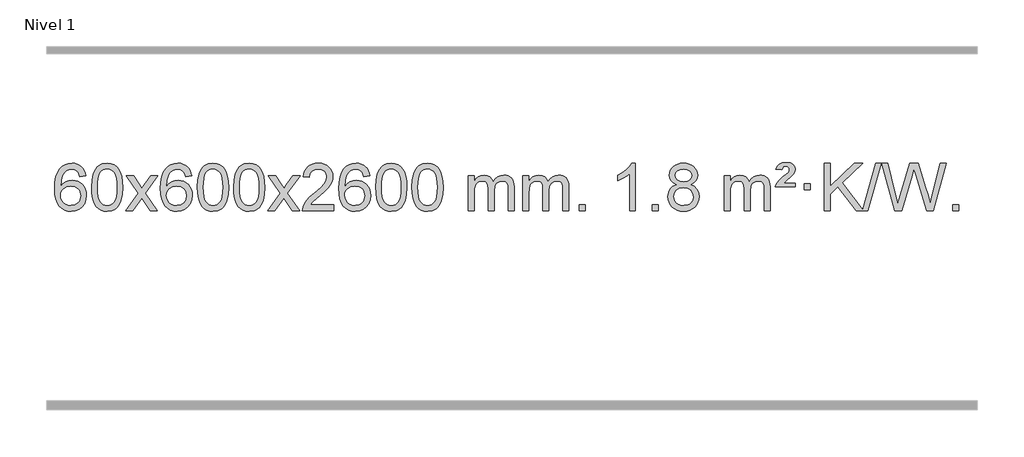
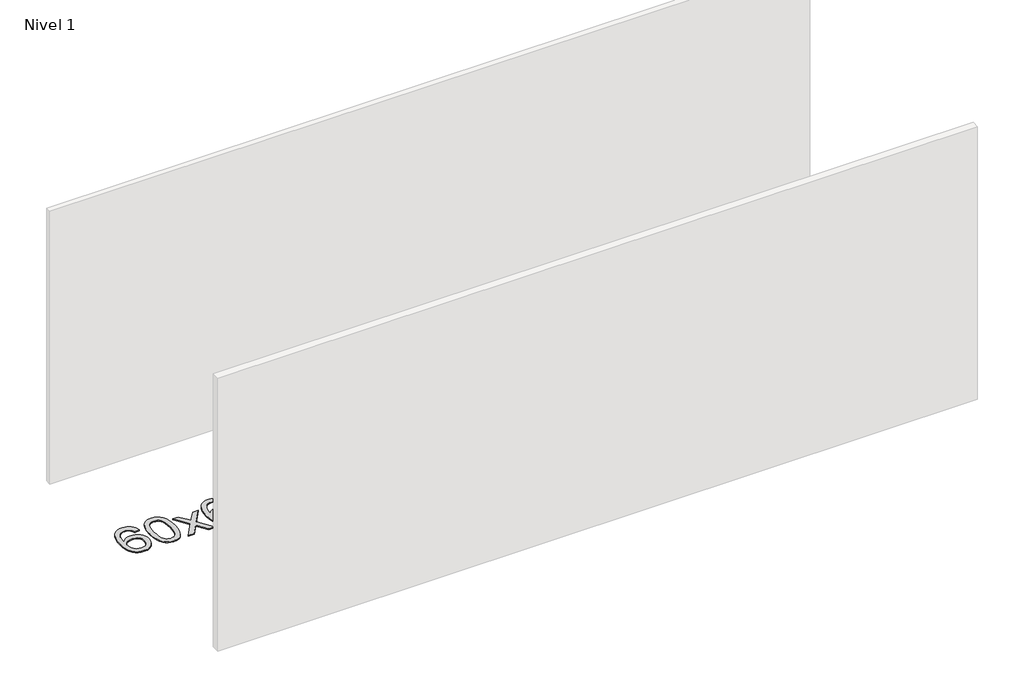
# One storey, part 6 of 9: 1 proxy.
"""IFC4 building model written with IfcOpenShell, lengths in millimetres."""

import ifcopenshell
import ifcopenshell.guid

model = None  # the IFC model being written
_history = None  # IfcOwnerHistory: only IFC2X3 demands one
_inside = {}  # id of a spatial element -> (the spatial element, [elements in it])
_under = {}  # id of a project, library or spatial element -> (it, [spatial elements below it])
_declared = {}  # id of a project -> (the project, [libraries it declares])
_typed = {}  # id of a type object -> (the type object, [elements of that type])
_made_of = {}  # id of a material, layer set ... -> (it, [elements and type objects made of it])


def new_model(schema):
    """Start an empty IFC model of exactly this schema.

    Asked for "IFC4X3", IfcOpenShell would pick the latest addendum, in which some entities
    have other attributes; the version numbers below select the first issue.
    IFC2X3 requires an IfcOwnerHistory on every rooted entity: one is made here for all.
    """
    global model, _history
    if schema == "IFC4X3":
        model = ifcopenshell.file(schema_version=(4, 3, 0, 0))
    else:
        model = ifcopenshell.file(schema=schema)
    _inside.clear()
    _under.clear()
    _declared.clear()
    _typed.clear()
    _made_of.clear()
    _history = None
    if model.schema == "IFC2X3":
        org = make("IfcOrganization", Name="unknown")
        user = make(
            "IfcPersonAndOrganization",
            ThePerson=make("IfcPerson", FamilyName="unknown"),
            TheOrganization=org,
        )
        app = make(
            "IfcApplication",
            ApplicationDeveloper=org,
            Version="unknown",
            ApplicationFullName="unknown",
            ApplicationIdentifier="unknown",
        )
        _history = make(
            "IfcOwnerHistory",
            OwningUser=user,
            OwningApplication=app,
            ChangeAction="ADDED",
            CreationDate=0,
        )
    return model


def make(cls, **values):
    """One entity of the class cls with the attributes given. An attribute that is None is left unset."""
    return model.create_entity(
        cls, **{name: value for name, value in values.items() if value is not None}
    )


def rooted(cls, **values):
    """An entity with a GlobalId (a new one), such as an element, a storey or a relation."""
    return make(cls, GlobalId=ifcopenshell.guid.new(), OwnerHistory=_history, **values)


def si_unit(unit_type, name, prefix=None):
    """IfcSIUnit, for example si_unit("LENGTHUNIT", "METRE", prefix="MILLI")."""
    return make("IfcSIUnit", UnitType=unit_type, Prefix=prefix, Name=name)


def assignment(units):
    """IfcUnitAssignment: the units of a project."""
    return None if units is None else make("IfcUnitAssignment", Units=units)


def point(xyz):
    """IfcCartesianPoint."""
    return None if xyz is None else make("IfcCartesianPoint", Coordinates=xyz)


def direction(xyz):
    """IfcDirection."""
    return None if xyz is None else make("IfcDirection", DirectionRatios=xyz)


def frame(location, z_axis=None, x_axis=None):
    """IfcAxis2Placement3D, a coordinate frame: its origin and axes. An axis left out is left unset."""
    return make(
        "IfcAxis2Placement3D",
        Location=point(location),
        Axis=direction(z_axis),
        RefDirection=direction(x_axis),
    )


def origin():
    """The frame at (0, 0, 0) with its axes left unset."""
    return frame((0.0, 0.0, 0.0))


def origin_with_axes():
    """The frame at (0, 0, 0) with the z axis (0, 0, 1) and the x axis (1, 0, 0) written out."""
    return frame((0.0, 0.0, 0.0), z_axis=(0.0, 0.0, 1.0), x_axis=(1.0, 0.0, 0.0))


def place(relative_to, where):
    """IfcLocalPlacement: puts the frame where relative to a parent placement (None: the world)."""
    return make(
        "IfcLocalPlacement", PlacementRelTo=relative_to, RelativePlacement=where
    )


def context(
    kind, dimensions, precision=None, world=None, true_north=None, identifier=None
):
    """IfcGeometricRepresentationContext, for example the 3D "Model" context."""
    return make(
        "IfcGeometricRepresentationContext",
        ContextIdentifier=identifier,
        ContextType=kind,
        CoordinateSpaceDimension=dimensions,
        Precision=precision,
        WorldCoordinateSystem=world,
        TrueNorth=true_north,
    )


def project(units=None, contexts=None):
    """IfcProject with its units and contexts."""
    return rooted(
        "IfcProject",
        Name="project",
        RepresentationContexts=contexts,
        UnitsInContext=assignment(units),
    )


def spatial(cls, under=None, at=None, **own):
    """A site, building, storey or space (cls), placed at a placement, below another one or the project."""
    s = rooted(cls, ObjectPlacement=at, **own)
    if under is not None:
        _under.setdefault(under.id(), (under, []))[1].append(s)
    return s


def polyline(points):
    """IfcPolyline through the points."""
    return make("IfcPolyline", Points=[point(p) for p in points])


def outline(outer, holes=None, kind="AREA"):
    """IfcArbitraryClosedProfileDef: a profile drawn as a closed curve; with holes, ...WithVoids."""
    if holes is None:
        return make("IfcArbitraryClosedProfileDef", ProfileType=kind, OuterCurve=outer)
    return make(
        "IfcArbitraryProfileDefWithVoids",
        ProfileType=kind,
        OuterCurve=outer,
        InnerCurves=holes,
    )


def extrude(swept, where, along, depth):
    """IfcExtrudedAreaSolid: the profile swept, set in the frame where, extruded along a direction by depth."""
    return make(
        "IfcExtrudedAreaSolid",
        SweptArea=swept,
        Position=where,
        ExtrudedDirection=direction(along),
        Depth=depth,
    )


def shape(context_of_items, identifier, shape_type, items):
    """IfcShapeRepresentation: the items that make up one representation, for example the "Body"."""
    return make(
        "IfcShapeRepresentation",
        ContextOfItems=context_of_items,
        RepresentationIdentifier=identifier,
        RepresentationType=shape_type,
        Items=items,
    )


def made_of(thing, what):
    """Note that an element or type object is made of a material, layer set ...; save() writes the relation."""
    if what is not None:
        _made_of.setdefault(what.id(), (what, []))[1].append(thing)
    return thing


def element(
    cls,
    number,
    at=None,
    inside=None,
    cuts=None,
    type_object=None,
    material=None,
    context=None,
    identifier="Body",
    shape_type=None,
    held_by="IfcProductDefinitionShape",
    body=None,
    shapes=None,
    **own,
):
    """One element of the class cls, such as IfcWall. Its Tag is "e" and its number.

    at: its placement. inside: the storey or other place that contains it. cuts: it is an
    opening in that element (IfcRelVoidsElement). A single representation is given by context,
    identifier, shape_type and body (its items); several are given by shapes. held_by: the class
    of the entity that holds the representations. save() writes the other relations.
    """
    e = rooted(cls, Tag="e%d" % number, ObjectPlacement=at, **own)
    if body is not None:
        shapes = [shape(context, identifier, shape_type, body)]
    if shapes is not None:
        e.Representation = make(held_by, Representations=shapes)
    if inside is not None:
        _inside.setdefault(inside.id(), (inside, []))[1].append(e)
    if cuts is not None:
        rooted(
            "IfcRelVoidsElement", RelatingBuildingElement=cuts, RelatedOpeningElement=e
        )
    if type_object is not None:
        _typed.setdefault(type_object.id(), (type_object, []))[1].append(e)
    return made_of(e, material)


def aggregate(whole, parts):
    """IfcRelAggregates: a whole, such as a stair, and the parts it consists of."""
    return rooted("IfcRelAggregates", RelatingObject=whole, RelatedObjects=parts)


def save(model, path):
    """Write the relations noted so far, then the file.

    IfcRelAggregates (storeys below a building ...), IfcRelContainedInSpatialStructure (elements
    in a storey), IfcRelDefinesByType, IfcRelAssociatesMaterial and IfcRelDeclares: one each for
    every whole, place, type object, material and project.
    """
    for whole, parts in _under.values():
        aggregate(whole, parts)
    for where, things in _inside.values():
        rooted(
            "IfcRelContainedInSpatialStructure",
            RelatedElements=things,
            RelatingStructure=where,
        )
    for kind, things in _typed.values():
        rooted("IfcRelDefinesByType", RelatedObjects=things, RelatingType=kind)
    for what, things in _made_of.values():
        rooted("IfcRelAssociatesMaterial", RelatedObjects=things, RelatingMaterial=what)
    for by, libraries in _declared.values():
        rooted("IfcRelDeclares", RelatingContext=by, RelatedDefinitions=libraries)
    model.write(path)


model = new_model("IFC4")

# Units and contexts
model_context = context("Model", 3, world=origin())
ifc_project = project(units=[si_unit("LENGTHUNIT", "METRE", prefix="MILLI")], contexts=[model_context])

# Site, building, storey
site = spatial("IfcSite", under=ifc_project)
building = spatial("IfcBuilding", under=site)
storey = spatial("IfcBuildingStorey", under=building, Name="Nivel 1", Elevation=0.0)

# Proxy
placement = place(None, origin())
element("IfcBuildingElementProxy", 1, Name="Texto de modelo 1", ObjectType="Texto de modelo 1", at=placement, inside=storey, context=model_context, shape_type="SweptSolid", body=[
    extrude(outline(polyline([(5501.2495843, -3100.4890419), (5451.0214292, -3106.7675613), (5442.9280253, -3081.874213), (5431.9896673, -3064.8780648), (5409.2055091, -3049.2062918), (5381.6634104, -3043.9823675), (5358.3151664, -3047.0235253), (5336.3403486, -3056.1469988), (5317.4680022, -3075.3627017), (5302.0537466, -3101.8134171), (5291.6426862, -3139.227016), (5287.7799252, -3191.3313693), (5307.9275958, -3167.8237098), (5332.0729174, -3151.2567573), (5358.8669894, -3141.434308), (5386.9609111, -3138.1601582), (5411.09397, -3140.398107), (5433.3630935, -3147.1119534), (5453.7682815, -3158.3016975), (5472.309534, -3173.9673391), (5487.7176582, -3193.1769106), (5498.7234613, -3214.9984443), (5505.3269431, -3239.4319401), (5507.5281037, -3266.4773982), (5503.3832999, -3302.4439945), (5490.9488884, -3335.786366), (5471.254939, -3364.0642287), (5445.331521, -3384.8372987), (5414.355857, -3397.602804), (5379.5051694, -3401.8579724), (5349.5626406, -3399.0375437), (5322.5202483, -3390.5762579), (5298.3779924, -3376.4741147), (5277.1358728, -3356.7311143), (5259.8178279, -3330.5133908), (5247.4477958, -3296.9870783), (5240.0257766, -3256.1521768), (5237.5517702, -3208.0086864), (5240.2986224, -3154.0342663), (5248.5391791, -3107.9693092), (5262.2734402, -3069.8138149), (5281.5014058, -3039.5677835), (5302.3419209, -3019.5243462), (5326.5056366, -3005.2076052), (5353.992553, -2996.6175606), (5384.8026701, -2993.7542124), (5407.9363162, -2995.5261773), (5428.8749331, -3000.8420722), (5447.6185208, -3009.7018969), (5464.1670792, -3022.1056515), (5478.0730186, -3037.6364031), (5488.8887493, -3055.8772186), (5496.6142712, -3076.8280983), (5501.2495843, -3100.4890419)]), holes=[polyline([(5287.7799252, -3265.6925832), (5290.686193, -3287.9494439), (5299.4049963, -3309.2007605), (5312.9430537, -3327.472233), (5330.3070839, -3340.7895612), (5351.2640949, -3348.9197533), (5375.5810947, -3351.6298173), (5408.7272625, -3346.0134855), (5422.642399, -3338.9930708), (5434.7855705, -3329.1644901), (5444.6356109, -3316.9262824), (5451.6713541, -3302.6769865), (5457.2999486, -3268.1451299), (5451.7449305, -3234.9989621), (5444.8011578, -3221.3781312), (5435.0798761, -3209.725469), (5422.8999164, -3200.3904634), (5408.5801097, -3193.7226022), (5373.5209556, -3188.3883133), (5340.4238387, -3193.7226022), (5312.74685, -3209.725469), (5301.8238204, -3221.2248471), (5294.0216564, -3234.3858254), (5289.340358, -3249.2084042), (5287.7799252, -3265.6925832)])]), origin_with_axes(), (0.0, 0.0, 1.0), 10.0),
    extrude(outline(polyline([(5551.4777394, -3197.9041943), (5555.1688221, -3133.5861588), (5566.2420701, -3082.2911459), (5584.5871189, -3043.2343407), (5596.4451819, -3028.0009605), (5610.0936039, -3015.6309284), (5625.5783702, -3006.0598651), (5642.9454661, -2999.2233914), (5683.3266464, -2993.7542124), (5714.277785, -2996.991574), (5741.9915619, -3006.7036586), (5765.1681276, -3022.5103217), (5782.5076323, -3044.0314184), (5795.6042314, -3071.0830078), (5806.05208, -3103.4811488), (5812.8946851, -3144.6226186), (5815.1755535, -3197.9041943), (5811.521259, -3261.8543477), (5800.5583756, -3313.0267333), (5782.3236913, -3352.1203266), (5770.4932195, -3367.3996922), (5756.8539945, -3379.8341036), (5741.3508341, -3389.4695462), (5723.928556, -3396.3520052), (5683.3266464, -3401.8579724), (5655.6619204, -3399.4667394), (5631.1364541, -3392.2930405), (5609.7502474, -3380.3368757), (5591.5033004, -3363.5982449), (5573.9921175, -3333.3399508), (5561.4841296, -3295.6381776), (5553.9793369, -3250.4929255), (5551.4777394, -3197.9041943)]), holes=[polyline([(5601.7058944, -3197.8060924), (5603.1774224, -3241.4706195), (5607.5920064, -3276.8148822), (5614.9496463, -3303.8388804), (5625.2503421, -3322.5426142), (5637.709279, -3335.2682656), (5651.5416421, -3344.3580165), (5666.7474312, -3349.8118671), (5683.3266464, -3351.6298173), (5699.9058617, -3349.8057357), (5715.1116508, -3344.3334911), (5728.9440138, -3335.2130833), (5741.4029507, -3322.4445124), (5751.7036466, -3303.7101217), (5759.0612865, -3276.6922549), (5763.4758705, -3241.3909118), (5764.9473984, -3197.8060924), (5763.5249214, -3155.2973278), (5759.2574902, -3120.5753989), (5752.145105, -3093.6403055), (5742.1877657, -3074.4920476), (5729.9372952, -3061.1440625), (5715.9455167, -3051.6097875), (5700.21243, -3045.8892225), (5682.7380352, -3043.9823675), (5666.2446591, -3045.6623619), (5651.2963874, -3050.7023452), (5637.89322, -3059.1023175), (5626.0351571, -3070.8622786), (5615.3911047, -3091.708925), (5607.7882101, -3119.8151094), (5603.2264734, -3155.1808319), (5601.7058944, -3197.8060924)])]), origin_with_axes(), (0.0, 0.0, 1.0), 10.0),
    extrude(outline(polyline([(5840.2896311, -3395.579453), (5947.6130718, -3247.2494325), (5846.5681504, -3100.4890419), (5906.9988995, -3100.4890419), (5955.7555266, -3171.122385), (5978.5151594, -3204.4770192), (5998.2336343, -3177.2047007), (6053.7592901, -3100.4890419), (6114.1900392, -3100.4890419), (6008.0438209, -3247.2494325), (6110.2659646, -3395.579453), (6049.8352155, -3395.579453), (5988.3253459, -3306.4048574), (5977.0436314, -3290.1199477), (5900.7203801, -3395.579453), (5840.2896311, -3395.579453)])), origin_with_axes(), (0.0, 0.0, 1.0), 10.0),
    extrude(outline(polyline([(6399.0778563, -3100.4890419), (6348.8497012, -3106.7675613), (6340.7562973, -3081.874213), (6329.8179393, -3064.8780648), (6307.0337811, -3049.2062918), (6279.4916824, -3043.9823675), (6256.1434384, -3047.0235253), (6234.1686206, -3056.1469988), (6215.2962742, -3075.3627017), (6199.8820186, -3101.8134171), (6189.4709581, -3139.227016), (6185.6081972, -3191.3313693), (6205.7558678, -3167.8237098), (6229.9011894, -3151.2567573), (6256.6952614, -3141.434308), (6284.7891831, -3138.1601582), (6308.922242, -3140.398107), (6331.1913654, -3147.1119534), (6351.5965534, -3158.3016975), (6370.137806, -3173.9673391), (6385.5459302, -3193.1769106), (6396.5517332, -3214.9984443), (6403.155215, -3239.4319401), (6405.3563756, -3266.4773982), (6401.2115718, -3302.4439945), (6388.7771604, -3335.786366), (6369.0832109, -3364.0642287), (6343.159793, -3384.8372987), (6312.184129, -3397.602804), (6277.3334413, -3401.8579724), (6247.3909126, -3399.0375437), (6220.3485203, -3390.5762579), (6196.2062643, -3376.4741147), (6174.9641448, -3356.7311143), (6157.6460999, -3330.5133908), (6145.2760678, -3296.9870783), (6137.8540485, -3256.1521768), (6135.3800421, -3208.0086864), (6138.1268943, -3154.0342663), (6146.367451, -3107.9693092), (6160.1017122, -3069.8138149), (6179.3296778, -3039.5677835), (6200.1701928, -3019.5243462), (6224.3339085, -3005.2076052), (6251.820825, -2996.6175606), (6282.6309421, -2993.7542124), (6305.7645882, -2995.5261773), (6326.7032051, -3000.8420722), (6345.4467927, -3009.7018969), (6361.9953511, -3022.1056515), (6375.9012906, -3037.6364031), (6386.7170212, -3055.8772186), (6394.4425431, -3076.8280983), (6399.0778563, -3100.4890419)]), holes=[polyline([(6185.6081972, -3265.6925832), (6188.514465, -3287.9494439), (6197.2332682, -3309.2007605), (6210.7713257, -3327.472233), (6228.1353558, -3340.7895612), (6249.0923668, -3348.9197533), (6273.4093667, -3351.6298173), (6306.5555345, -3346.0134855), (6320.4706709, -3338.9930708), (6332.6138425, -3329.1644901), (6342.4638829, -3316.9262824), (6349.499626, -3302.6769865), (6355.1282206, -3268.1451299), (6349.5732024, -3234.9989621), (6342.6294298, -3221.3781312), (6332.9081481, -3209.725469), (6320.7281883, -3200.3904634), (6306.4083817, -3193.7226022), (6271.3492275, -3188.3883133), (6238.2521107, -3193.7226022), (6210.5751219, -3209.725469), (6199.6520924, -3221.2248471), (6191.8499284, -3234.3858254), (6187.16863, -3249.2084042), (6185.6081972, -3265.6925832)])]), origin_with_axes(), (0.0, 0.0, 1.0), 10.0),
    extrude(outline(polyline([(6449.3060113, -3197.9041943), (6452.997094, -3133.5861588), (6464.0703421, -3082.2911459), (6482.4153909, -3043.2343407), (6494.2734539, -3028.0009605), (6507.9218759, -3015.6309284), (6523.4066422, -3006.0598651), (6540.7737381, -2999.2233914), (6581.1549184, -2993.7542124), (6612.1060569, -2996.991574), (6639.8198339, -3006.7036586), (6662.9963996, -3022.5103217), (6680.3359043, -3044.0314184), (6693.4325033, -3071.0830078), (6703.880352, -3103.4811488), (6710.7229571, -3144.6226186), (6713.0038255, -3197.9041943), (6709.349531, -3261.8543477), (6698.3866475, -3313.0267333), (6680.1519633, -3352.1203266), (6668.3214915, -3367.3996922), (6654.6822665, -3379.8341036), (6639.1791061, -3389.4695462), (6621.7568279, -3396.3520052), (6581.1549184, -3401.8579724), (6553.4901924, -3399.4667394), (6528.964726, -3392.2930405), (6507.5785194, -3380.3368757), (6489.3315724, -3363.5982449), (6471.8203894, -3333.3399508), (6459.3124016, -3295.6381776), (6451.8076089, -3250.4929255), (6449.3060113, -3197.9041943)]), holes=[polyline([(6499.5341664, -3197.8060924), (6501.0056944, -3241.4706195), (6505.4202783, -3276.8148822), (6512.7779182, -3303.8388804), (6523.0786141, -3322.5426142), (6535.537551, -3335.2682656), (6549.369914, -3344.3580165), (6564.5757032, -3349.8118671), (6581.1549184, -3351.6298173), (6597.7341337, -3349.8057357), (6612.9399228, -3344.3334911), (6626.7722858, -3335.2130833), (6639.2312227, -3322.4445124), (6649.5319186, -3303.7101217), (6656.8895585, -3276.6922549), (6661.3041424, -3241.3909118), (6662.7756704, -3197.8060924), (6661.3531934, -3155.2973278), (6657.0857622, -3120.5753989), (6649.973377, -3093.6403055), (6640.0160376, -3074.4920476), (6627.7655672, -3061.1440625), (6613.7737886, -3051.6097875), (6598.040702, -3045.8892225), (6580.5663072, -3043.9823675), (6564.0729311, -3045.6623619), (6549.1246594, -3050.7023452), (6535.721492, -3059.1023175), (6523.863429, -3070.8622786), (6513.2193766, -3091.708925), (6505.6164821, -3119.8151094), (6501.0547453, -3155.1808319), (6499.5341664, -3197.8060924)])]), origin_with_axes(), (0.0, 0.0, 1.0), 10.0),
    extrude(outline(polyline([(6756.9534612, -3197.9041943), (6760.6445439, -3133.5861588), (6771.7177919, -3082.2911459), (6790.0628407, -3043.2343407), (6801.9209037, -3028.0009605), (6815.5693257, -3015.6309284), (6831.054092, -3006.0598651), (6848.4211879, -2999.2233914), (6888.8023682, -2993.7542124), (6919.7535068, -2996.991574), (6947.4672837, -3006.7036586), (6970.6438494, -3022.5103217), (6987.9833541, -3044.0314184), (7001.0799532, -3071.0830078), (7011.5278018, -3103.4811488), (7018.3704069, -3144.6226186), (7020.6512753, -3197.9041943), (7016.9969808, -3261.8543477), (7006.0340974, -3313.0267333), (6987.7994131, -3352.1203266), (6975.9689413, -3367.3996922), (6962.3297163, -3379.8341036), (6946.8265559, -3389.4695462), (6929.4042778, -3396.3520052), (6888.8023682, -3401.8579724), (6861.1376422, -3399.4667394), (6836.6121759, -3392.2930405), (6815.2259692, -3380.3368757), (6796.9790222, -3363.5982449), (6779.4678393, -3333.3399508), (6766.9598514, -3295.6381776), (6759.4550587, -3250.4929255), (6756.9534612, -3197.9041943)]), holes=[polyline([(6807.1816162, -3197.8060924), (6808.6531442, -3241.4706195), (6813.0677282, -3276.8148822), (6820.4253681, -3303.8388804), (6830.7260639, -3322.5426142), (6843.1850008, -3335.2682656), (6857.0173639, -3344.3580165), (6872.223153, -3349.8118671), (6888.8023682, -3351.6298173), (6905.3815835, -3349.8057357), (6920.5873726, -3344.3334911), (6934.4197356, -3335.2130833), (6946.8786725, -3322.4445124), (6957.1793684, -3303.7101217), (6964.5370083, -3276.6922549), (6968.9515923, -3241.3909118), (6970.4231202, -3197.8060924), (6969.0006432, -3155.2973278), (6964.733212, -3120.5753989), (6957.6208268, -3093.6403055), (6947.6634875, -3074.4920476), (6935.413017, -3061.1440625), (6921.4212385, -3051.6097875), (6905.6881518, -3045.8892225), (6888.213757, -3043.9823675), (6871.7203809, -3045.6623619), (6856.7721092, -3050.7023452), (6843.3689418, -3059.1023175), (6831.5108789, -3070.8622786), (6820.8668265, -3091.708925), (6813.2639319, -3119.8151094), (6808.7021952, -3155.1808319), (6807.1816162, -3197.8060924)])]), origin_with_axes(), (0.0, 0.0, 1.0), 10.0),
    extrude(outline(polyline([(7045.7653528, -3395.579453), (7153.0887936, -3247.2494325), (7052.0438722, -3100.4890419), (7112.4746213, -3100.4890419), (7161.2312484, -3171.122385), (7183.9908812, -3204.4770192), (7203.7093561, -3177.2047007), (7259.2350119, -3100.4890419), (7319.665761, -3100.4890419), (7213.5195426, -3247.2494325), (7315.7416864, -3395.579453), (7255.3109373, -3395.579453), (7193.8010677, -3306.4048574), (7182.5193532, -3290.1199477), (7106.1961019, -3395.579453), (7045.7653528, -3395.579453)])), origin_with_axes(), (0.0, 0.0, 1.0), 10.0),
    extrude(outline(polyline([(7604.5535781, -3345.3512979), (7604.5535781, -3395.579453), (7340.8557639, -3395.579453), (7341.9594099, -3377.8965918), (7346.2513665, -3360.9494945), (7358.636727, -3333.8856424), (7376.7610466, -3307.6311307), (7402.9787702, -3280.1503456), (7439.6443423, -3249.4076736), (7493.845623, -3201.2641831), (7526.3663913, -3165.7267824), (7542.6267755, -3136.884834), (7548.0469036, -3108.8277005), (7542.9333439, -3083.6768347), (7527.5926647, -3062.7688747), (7504.0114288, -3048.6789943), (7474.176199, -3043.9823675), (7442.8449157, -3048.5686297), (7418.5033904, -3062.3274163), (7402.7948292, -3084.1796068), (7397.3624384, -3113.0460807), (7347.1342833, -3106.7675613), (7351.4538311, -3080.838012), (7359.3111773, -3058.1826125), (7370.7063221, -3038.8013627), (7385.6392655, -3022.6942627), (7403.7666508, -3010.0329907), (7424.7451215, -3000.989225), (7448.5746778, -2995.5629655), (7475.2553195, -2993.7542124), (7502.1750845, -2995.7653006), (7526.1333994, -3001.7985654), (7547.1302643, -3011.8540066), (7565.1656791, -3025.9316242), (7579.6510327, -3042.9890861), (7589.9977138, -3061.9840598), (7596.2057224, -3082.9165453), (7598.2750587, -3105.7865427), (7596.0432412, -3129.8092369), (7589.3477889, -3153.4149983), (7577.4652005, -3177.4254299), (7559.6719746, -3202.6621347), (7531.3082728, -3232.7916701), (7487.7142564, -3271.4805933), (7429.9322577, -3319.795762), (7407.2707268, -3345.3512979), (7604.5535781, -3345.3512979)])), origin_with_axes(), (0.0, 0.0, 1.0), 10.0),
    extrude(outline(polyline([(7912.2010279, -3100.4890419), (7861.9728728, -3106.7675613), (7853.8794689, -3081.874213), (7842.9411109, -3064.8780648), (7820.1569527, -3049.2062918), (7792.614854, -3043.9823675), (7769.26661, -3047.0235253), (7747.2917922, -3056.1469988), (7728.4194458, -3075.3627017), (7713.0051902, -3101.8134171), (7702.5941298, -3139.227016), (7698.7313688, -3191.3313693), (7718.8790394, -3167.8237098), (7743.024361, -3151.2567573), (7769.818433, -3141.434308), (7797.9123547, -3138.1601582), (7822.0454136, -3140.398107), (7844.314537, -3147.1119534), (7864.719725, -3158.3016975), (7883.2609776, -3173.9673391), (7898.6691018, -3193.1769106), (7909.6749049, -3214.9984443), (7916.2783867, -3239.4319401), (7918.4795473, -3266.4773982), (7914.3347435, -3302.4439945), (7901.900332, -3335.786366), (7882.2063825, -3364.0642287), (7856.2829646, -3384.8372987), (7825.3073006, -3397.602804), (7790.4566129, -3401.8579724), (7760.5140842, -3399.0375437), (7733.4716919, -3390.5762579), (7709.329436, -3376.4741147), (7688.0873164, -3356.7311143), (7670.7692715, -3330.5133908), (7658.3992394, -3296.9870783), (7650.9772202, -3256.1521768), (7648.5032137, -3208.0086864), (7651.250066, -3154.0342663), (7659.4906227, -3107.9693092), (7673.2248838, -3069.8138149), (7692.4528494, -3039.5677835), (7713.2933645, -3019.5243462), (7737.4570802, -3005.2076052), (7764.9439966, -2996.6175606), (7795.7541137, -2993.7542124), (7818.8877598, -2995.5261773), (7839.8263767, -3000.8420722), (7858.5699644, -3009.7018969), (7875.1185228, -3022.1056515), (7889.0244622, -3037.6364031), (7899.8401928, -3055.8772186), (7907.5657147, -3076.8280983), (7912.2010279, -3100.4890419)]), holes=[polyline([(7698.7313688, -3265.6925832), (7701.6376366, -3287.9494439), (7710.3564399, -3309.2007605), (7723.8944973, -3327.472233), (7741.2585275, -3340.7895612), (7762.2155385, -3348.9197533), (7786.5325383, -3351.6298173), (7819.6787061, -3346.0134855), (7833.5938426, -3338.9930708), (7845.7370141, -3329.1644901), (7855.5870545, -3316.9262824), (7862.6227977, -3302.6769865), (7868.2513922, -3268.1451299), (7862.6963741, -3234.9989621), (7855.7526014, -3221.3781312), (7846.0313197, -3209.725469), (7833.85136, -3200.3904634), (7819.5315533, -3193.7226022), (7784.4723992, -3188.3883133), (7751.3752823, -3193.7226022), (7723.6982936, -3209.725469), (7712.775264, -3221.2248471), (7704.9731, -3234.3858254), (7700.2918016, -3249.2084042), (7698.7313688, -3265.6925832)])]), origin_with_axes(), (0.0, 0.0, 1.0), 10.0),
    extrude(outline(polyline([(7962.429183, -3197.9041943), (7966.1202656, -3133.5861588), (7977.1935137, -3082.2911459), (7995.5385625, -3043.2343407), (8007.3966255, -3028.0009605), (8021.0450475, -3015.6309284), (8036.5298138, -3006.0598651), (8053.8969097, -2999.2233914), (8094.27809, -2993.7542124), (8125.2292286, -2996.991574), (8152.9430055, -3006.7036586), (8176.1195712, -3022.5103217), (8193.4590759, -3044.0314184), (8206.555675, -3071.0830078), (8217.0035236, -3103.4811488), (8223.8461287, -3144.6226186), (8226.1269971, -3197.9041943), (8222.4727026, -3261.8543477), (8211.5098192, -3313.0267333), (8193.2751349, -3352.1203266), (8181.4446631, -3367.3996922), (8167.8054381, -3379.8341036), (8152.3022777, -3389.4695462), (8134.8799996, -3396.3520052), (8094.27809, -3401.8579724), (8066.613364, -3399.4667394), (8042.0878976, -3392.2930405), (8020.701691, -3380.3368757), (8002.454744, -3363.5982449), (7984.9435611, -3333.3399508), (7972.4355732, -3295.6381776), (7964.9307805, -3250.4929255), (7962.429183, -3197.9041943)]), holes=[polyline([(8012.657338, -3197.8060924), (8014.128866, -3241.4706195), (8018.54345, -3276.8148822), (8025.9010899, -3303.8388804), (8036.2017857, -3322.5426142), (8048.6607226, -3335.2682656), (8062.4930856, -3344.3580165), (8077.6988748, -3349.8118671), (8094.27809, -3351.6298173), (8110.8573053, -3349.8057357), (8126.0630944, -3344.3334911), (8139.8954574, -3335.2130833), (8152.3543943, -3322.4445124), (8162.6550902, -3303.7101217), (8170.0127301, -3276.6922549), (8174.427314, -3241.3909118), (8175.898842, -3197.8060924), (8174.476365, -3155.2973278), (8170.2089338, -3120.5753989), (8163.0965486, -3093.6403055), (8153.1392093, -3074.4920476), (8140.8887388, -3061.1440625), (8126.8969603, -3051.6097875), (8111.1638736, -3045.8892225), (8093.6894788, -3043.9823675), (8077.1961027, -3045.6623619), (8062.247831, -3050.7023452), (8048.8446636, -3059.1023175), (8036.9866007, -3070.8622786), (8026.3425483, -3091.708925), (8018.7396537, -3119.8151094), (8014.1779169, -3155.1808319), (8012.657338, -3197.8060924)])]), origin_with_axes(), (0.0, 0.0, 1.0), 10.0),
    extrude(outline(polyline([(8270.0766328, -3197.9041943), (8273.7677155, -3133.5861588), (8284.8409635, -3082.2911459), (8303.1860124, -3043.2343407), (8315.0440753, -3028.0009605), (8328.6924974, -3015.6309284), (8344.1772637, -3006.0598651), (8361.5443595, -2999.2233914), (8401.9255399, -2993.7542124), (8432.8766784, -2996.991574), (8460.5904554, -3006.7036586), (8483.7670211, -3022.5103217), (8501.1065258, -3044.0314184), (8514.2031248, -3071.0830078), (8524.6509735, -3103.4811488), (8531.4935786, -3144.6226186), (8533.7744469, -3197.9041943), (8530.1201525, -3261.8543477), (8519.157269, -3313.0267333), (8500.9225848, -3352.1203266), (8489.0921129, -3367.3996922), (8475.452888, -3379.8341036), (8459.9497276, -3389.4695462), (8442.5274494, -3396.3520052), (8401.9255399, -3401.8579724), (8374.2608138, -3399.4667394), (8349.7353475, -3392.2930405), (8328.3491408, -3380.3368757), (8310.1021939, -3363.5982449), (8292.5910109, -3333.3399508), (8280.0830231, -3295.6381776), (8272.5782304, -3250.4929255), (8270.0766328, -3197.9041943)]), holes=[polyline([(8320.3047879, -3197.8060924), (8321.7763158, -3241.4706195), (8326.1908998, -3276.8148822), (8333.5485397, -3303.8388804), (8343.8492356, -3322.5426142), (8356.3081725, -3335.2682656), (8370.1405355, -3344.3580165), (8385.3463246, -3349.8118671), (8401.9255399, -3351.6298173), (8418.5047551, -3349.8057357), (8433.7105442, -3344.3334911), (8447.5429073, -3335.2130833), (8460.0018442, -3322.4445124), (8470.30254, -3303.7101217), (8477.6601799, -3276.6922549), (8482.0747639, -3241.3909118), (8483.5462919, -3197.8060924), (8482.1238148, -3155.2973278), (8477.8563837, -3120.5753989), (8470.7439984, -3093.6403055), (8460.7866591, -3074.4920476), (8448.5361887, -3061.1440625), (8434.5444101, -3051.6097875), (8418.8113234, -3045.8892225), (8401.3369287, -3043.9823675), (8384.8435526, -3045.6623619), (8369.8952808, -3050.7023452), (8356.4921135, -3059.1023175), (8344.6340505, -3070.8622786), (8333.9899981, -3091.708925), (8326.3871035, -3119.8151094), (8321.8253668, -3155.1808319), (8320.3047879, -3197.8060924)])]), origin_with_axes(), (0.0, 0.0, 1.0), 10.0),
    extrude(outline(polyline([(8747.244106, -3395.579453), (8747.244106, -3100.4890419), (8797.4722611, -3100.4890419), (8797.4722611, -3149.0494653), (8812.5799483, -3126.7435537), (8832.0041177, -3109.2691589), (8855.0825815, -3097.9751816), (8881.1531522, -3094.2105225), (8909.0876584, -3098.048758), (8931.4794092, -3109.5634645), (8948.2057772, -3127.9943524), (8959.1441352, -3152.5811324), (8977.4523959, -3127.0439906), (8998.3358304, -3108.803175), (9021.794439, -3097.8586857), (9047.8282215, -3094.2105225), (9067.9360383, -3095.7280358), (9085.585177, -3100.2805755), (9100.7756377, -3107.8681416), (9113.5074204, -3118.4907342), (9123.5720587, -3132.2709806), (9130.761086, -3149.3315082), (9135.0745024, -3169.6723168), (9136.5123078, -3193.2934066), (9136.5123078, -3395.579453), (9086.2841528, -3395.579453), (9086.2841528, -3214.875817), (9085.1191931, -3189.8230531), (9081.6243142, -3172.9372695), (9075.0760146, -3161.3735121), (9064.7507933, -3152.2868268), (9051.4702533, -3146.4007149), (9036.0559977, -3144.4386776), (9008.8449928, -3149.4663982), (8986.6617085, -3164.54956), (8978.0563355, -3176.1194488), (8971.9096405, -3190.7182326), (8966.9922845, -3229.0024856), (8966.9922845, -3395.579453), (8916.7641294, -3395.579453), (8916.7641294, -3209.2840106), (8913.8578616, -3180.8835206), (8905.1390583, -3160.6254854), (8889.7983791, -3148.4853796), (8867.0264836, -3144.4386776), (8847.6758907, -3147.1364789), (8829.8458767, -3155.2298828), (8815.1305968, -3168.5226856), (8805.1242066, -3186.8186835), (8799.3852475, -3212.2025411), (8797.4722611, -3246.7589232), (8797.4722611, -3395.579453), (8747.244106, -3395.579453)])), origin_with_axes(), (0.0, 0.0, 1.0), 10.0),
    extrude(outline(polyline([(9211.8545404, -3395.579453), (9211.8545404, -3100.4890419), (9262.0826955, -3100.4890419), (9262.0826955, -3149.0494653), (9277.1903828, -3126.7435537), (9296.6145521, -3109.2691589), (9319.693016, -3097.9751816), (9345.7635867, -3094.2105225), (9373.6980929, -3098.048758), (9396.0898436, -3109.5634645), (9412.8162117, -3127.9943524), (9423.7545697, -3152.5811324), (9442.0628303, -3127.0439906), (9462.9462649, -3108.803175), (9486.4048734, -3097.8586857), (9512.438656, -3094.2105225), (9532.5464727, -3095.7280358), (9550.1956114, -3100.2805755), (9565.3860721, -3107.8681416), (9578.1178548, -3118.4907342), (9588.1824931, -3132.2709806), (9595.3715204, -3149.3315082), (9599.6849368, -3169.6723168), (9601.1227423, -3193.2934066), (9601.1227423, -3395.579453), (9550.8945872, -3395.579453), (9550.8945872, -3214.875817), (9549.7296276, -3189.8230531), (9546.2347486, -3172.9372695), (9539.6864491, -3161.3735121), (9529.3612278, -3152.2868268), (9516.0806877, -3146.4007149), (9500.6664321, -3144.4386776), (9473.4554272, -3149.4663982), (9451.2721429, -3164.54956), (9442.6667699, -3176.1194488), (9436.5200749, -3190.7182326), (9431.6027189, -3229.0024856), (9431.6027189, -3395.579453), (9381.3745638, -3395.579453), (9381.3745638, -3209.2840106), (9378.4682961, -3180.8835206), (9369.7494928, -3160.6254854), (9354.4088136, -3148.4853796), (9331.6369181, -3144.4386776), (9312.2863251, -3147.1364789), (9294.4563111, -3155.2298828), (9279.7410313, -3168.5226856), (9269.734641, -3186.8186835), (9263.9956819, -3212.2025411), (9262.0826955, -3246.7589232), (9262.0826955, -3395.579453), (9211.8545404, -3395.579453)])), origin_with_axes(), (0.0, 0.0, 1.0), 10.0),
    extrude(outline(polyline([(9689.0220137, -3395.579453), (9689.0220137, -3345.3512979), (9739.2501687, -3345.3512979), (9739.2501687, -3395.579453), (9689.0220137, -3395.579453)])), origin_with_axes(), (0.0, 0.0, 1.0), 10.0),
    extrude(outline(polyline([(10166.1894869, -3395.579453), (10115.9613318, -3395.579453), (10115.9613318, -3082.4382987), (10094.9920581, -3099.3976587), (10068.3819271, -3116.3324932), (10015.5050216, -3141.6918254), (10015.5050216, -3094.2105225), (10054.9542343, -3072.7507395), (10089.1304716, -3047.219729), (10116.0716964, -3020.0700378), (10133.8158713, -2993.7542124), (10166.1894869, -2993.7542124), (10166.1894869, -3395.579453)])), origin_with_axes(), (0.0, 0.0, 1.0), 10.0),
    extrude(outline(polyline([(10310.5954327, -3395.579453), (10310.5954327, -3345.3512979), (10360.8235878, -3345.3512979), (10360.8235878, -3395.579453), (10310.5954327, -3395.579453)])), origin_with_axes(), (0.0, 0.0, 1.0), 10.0),
    extrude(outline(polyline([(10515.6283314, -3174.2616447), (10488.7361575, -3161.0178929), (10469.8638112, -3143.0652515), (10458.7169867, -3120.7716026), (10455.0013785, -3094.5048281), (10457.0247295, -3074.0199324), (10463.0947824, -3055.2395565), (10473.2115373, -3038.1637006), (10487.3749941, -3022.7923645), (10504.9045712, -3010.088173), (10525.1196868, -3001.0137504), (10548.020341, -2995.5690969), (10573.6065338, -2993.7542124), (10599.3153539, -2995.6120165), (10622.3876864, -3001.1854287), (10642.8235312, -3010.4744491), (10660.6228884, -3023.4790776), (10675.0438626, -3039.1508506), (10685.3445585, -3056.4413044), (10691.524976, -3075.3504389), (10693.5851152, -3095.8782543), (10689.9185579, -3121.2989001), (10678.9188863, -3143.2124043), (10660.4634729, -3161.0546811), (10634.4296903, -3174.2616447), (10665.3440407, -3190.1909351), (10687.846156, -3213.6495436), (10701.5681544, -3243.5092989), (10706.1421539, -3278.6420295), (10703.8735483, -3303.6947933), (10697.0677314, -3326.6628926), (10685.7247032, -3347.5463272), (10669.8444637, -3366.3450971), (10650.2608789, -3381.88198), (10627.8078144, -3392.9797536), (10602.4852704, -3399.6384177), (10574.2932469, -3401.8579724), (10546.1012233, -3399.6292206), (10520.7786793, -3392.9429654), (10498.3256148, -3381.7992066), (10478.74203, -3366.1979443), (10462.8617905, -3347.26735), (10451.5187623, -3326.135595), (10444.7129454, -3302.8026795), (10442.4443398, -3277.2686033), (10447.2022803, -3240.7747094), (10461.4761017, -3210.7555386), (10484.53004, -3188.2411605), (10515.6283314, -3174.2616447)]), holes=[polyline([(10492.6724949, -3275.5027698), (10494.7694222, -3294.7184726), (10501.0602043, -3313.3210389), (10512.6730127, -3329.5446349), (10530.7360186, -3341.623427), (10552.3674799, -3349.1282197), (10574.6856543, -3351.6298173), (10608.8741544, -3346.3691048), (10622.7678311, -3339.7932141), (10634.5277922, -3330.5869672), (10650.5674472, -3306.6869002), (10655.9139988, -3277.0723996), (10650.3957689, -3246.9551269), (10633.8410791, -3222.5277625), (10621.762287, -3213.0854579), (10607.5988301, -3206.3409547), (10573.0179226, -3200.9453521), (10539.3076691, -3206.2673783), (10525.5703423, -3212.919911), (10513.9115487, -3222.2334569), (10497.9822583, -3246.1948375), (10492.6724949, -3275.5027698)]), polyline([(10505.2295336, -3095.9763561), (10509.6809058, -3117.902123), (10523.0350222, -3135.413306), (10544.8994754, -3146.8912243), (10574.881858, -3150.717197), (10604.1652649, -3146.9157497), (10625.6986243, -3135.5114079), (10638.9423761, -3118.5888361), (10643.3569601, -3098.232699), (10638.7952233, -3077.1040098), (10625.1100131, -3059.629615), (10603.2823481, -3047.8941794), (10574.2932469, -3043.9823675), (10545.1202046, -3047.8083402), (10523.3293278, -3059.2862585), (10509.7544822, -3076.1107284), (10505.2295336, -3095.9763561)])]), origin_with_axes(), (0.0, 0.0, 1.0), 10.0),
    extrude(outline(polyline([(10919.611813, -3395.579453), (10919.611813, -3100.4890419), (10969.8399681, -3100.4890419), (10969.8399681, -3149.0494653), (10984.9476553, -3126.7435537), (11004.3718247, -3109.2691589), (11027.4502885, -3097.9751816), (11053.5208592, -3094.2105225), (11081.4553654, -3098.048758), (11103.8471162, -3109.5634645), (11120.5734842, -3127.9943524), (11131.5118422, -3152.5811324), (11149.8201028, -3127.0439906), (11170.7035374, -3108.803175), (11194.162146, -3097.8586857), (11220.1959285, -3094.2105225), (11240.3037452, -3095.7280358), (11257.952884, -3100.2805755), (11273.1433447, -3107.8681416), (11285.8751274, -3118.4907342), (11295.9397656, -3132.2709806), (11303.128793, -3149.3315082), (11307.4422094, -3169.6723168), (11308.8800148, -3193.2934066), (11308.8800148, -3395.579453), (11258.6518597, -3395.579453), (11258.6518597, -3214.875817), (11257.4869001, -3189.8230531), (11253.9920211, -3172.9372695), (11247.4437216, -3161.3735121), (11237.1185003, -3152.2868268), (11223.8379603, -3146.4007149), (11208.4237047, -3144.4386776), (11181.2126998, -3149.4663982), (11159.0294155, -3164.54956), (11150.4240424, -3176.1194488), (11144.2773474, -3190.7182326), (11139.3599914, -3229.0024856), (11139.3599914, -3395.579453), (11089.1318364, -3395.579453), (11089.1318364, -3209.2840106), (11086.2255686, -3180.8835206), (11077.5067653, -3160.6254854), (11062.1660861, -3148.4853796), (11039.3941906, -3144.4386776), (11020.0435977, -3147.1364789), (11002.2135836, -3155.2298828), (10987.4983038, -3168.5226856), (10977.4919136, -3186.8186835), (10971.7529544, -3212.2025411), (10969.8399681, -3246.7589232), (10969.8399681, -3395.579453), (10919.611813, -3395.579453)])), origin_with_axes(), (0.0, 0.0, 1.0), 10.0),
    extrude(outline(polyline([(11352.8296505, -3194.6668327), (11356.6556233, -3178.8479069), (11364.9942818, -3162.9799302), (11386.5031158, -3137.8413272), (11418.4597984, -3110.1030247), (11462.6056379, -3072.726214), (11469.7425486, -3061.1992448), (11472.1215188, -3049.3779701), (11470.2330579, -3037.2869152), (11464.5676752, -3027.5012541), (11455.198947, -3021.026531), (11442.2004499, -3018.8682899), (11429.7660384, -3020.4869707), (11420.9123451, -3025.343013), (11414.4866729, -3034.8098431), (11409.336325, -3050.2608869), (11359.1081699, -3043.9823675), (11369.948426, -3018.7701881), (11386.5766922, -3001.2099542), (11410.3418691, -2990.9092583), (11442.5928573, -2987.475693), (11478.3755127, -2991.6082341), (11503.1217083, -3004.0058573), (11517.5426825, -3022.3386434), (11522.3496739, -3044.2766731), (11518.253921, -3067.1834586), (11505.9666624, -3088.8149199), (11485.438847, -3108.6314968), (11448.9694786, -3136.6886303), (11423.3648917, -3163.2742358), (11522.3496739, -3163.2742358), (11522.3496739, -3194.6668327), (11352.8296505, -3194.6668327)])), origin_with_axes(), (0.0, 0.0, 1.0), 10.0),
    extrude(outline(polyline([(11597.6919065, -3219.7809102), (11597.6919065, -3169.5527552), (11647.9200616, -3169.5527552), (11647.9200616, -3219.7809102), (11597.6919065, -3219.7809102)])), origin_with_axes(), (0.0, 0.0, 1.0), 10.0),
    extrude(outline(polyline([(12038.5616895, -3395.579453), (11885.1303721, -3192.9009991), (11817.440085, -3257.4520265), (11817.440085, -3395.579453), (11767.2119299, -3395.579453), (11767.2119299, -2993.7542124), (11817.440085, -2993.7542124), (11817.440085, -3190.4484525), (12023.4540023, -2993.7542124), (12093.6949379, -2993.7542124), (11920.7413492, -3158.9577537), (12095.3949591, -3389.5349332), (12206.7082868, -2993.7542124), (12252.0313486, -2993.7542124), (12139.0179997, -3395.579453), (12099.9734572, -3395.579453), (12093.6949379, -3395.579453), (12038.5616895, -3395.579453)])), origin_with_axes(), (0.0, 0.0, 1.0), 10.0),
    extrude(outline(polyline([(12366.5162255, -3395.579453), (12256.9364419, -2993.7542124), (12308.7342268, -2993.7542124), (12372.3042355, -3257.844434), (12391.9246086, -3339.3670841), (12412.9184078, -3267.2622131), (12492.5771225, -2993.7542124), (12567.2326421, -2993.7542124), (12625.1127426, -3192.0180823), (12649.9079891, -3265.5944814), (12668.1794615, -3339.3670841), (12687.2112234, -3260.1988788), (12751.3698434, -2993.7542124), (12803.1676283, -2993.7542124), (12693.4897428, -3395.579453), (12639.8280224, -3395.579453), (12543.4919906, -3085.5775584), (12530.0520351, -3042.3146358), (12514.9443478, -3094.4067263), (12427.1431783, -3395.579453), (12366.5162255, -3395.579453)])), origin_with_axes(), (0.0, 0.0, 1.0), 10.0),
    extrude(outline(polyline([(12859.6743028, -3395.579453), (12859.6743028, -3345.3512979), (12909.9024578, -3345.3512979), (12909.9024578, -3395.579453), (12859.6743028, -3395.579453)])), origin_with_axes(), (0.0, 0.0, 1.0), 10.0),
])

save(model, "model.ifc")
